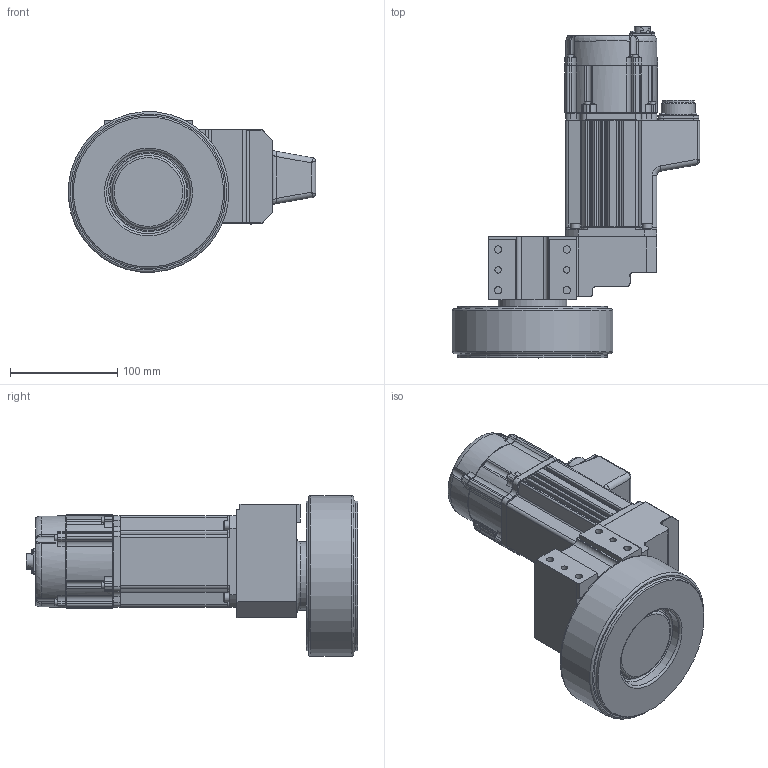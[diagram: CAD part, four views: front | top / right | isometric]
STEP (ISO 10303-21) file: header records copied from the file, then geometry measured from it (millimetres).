
FILE_DESCRIPTION(('STEP AP203'),'1');
FILE_NAME('cad-stp-DP-W020B-T15.stp','2022-12-22T00:20:45',(' '),(' '),'Spatial InterOp 3D',' ',' ');
FILE_SCHEMA(('CONFIG_CONTROL_DESIGN'));
Length unit declared in the file: millimetre
Products named in the file (1): cad-stp-DP-W020B-T15
Bounding box: 230.78 x 309.55 x 149.55 mm (x, y, z)
Volume: 2757122.6 mm3; surface area: 238310.2 mm2
Topology: 1 solids, 66 shells, 1689 faces, 3858 edges, 2394 vertices
Faces by surface type: plane 876, cylinder 449, cone 257, torus 68, bspline 32, sphere 7
Full cylindrical faces by diameter (mm): 0.756 x10, 0.8 x10, 1.7 x10, 2 x7, 2.05 x2, 2.5 x32, 2.8 x7, 3 x12, 3.1 x4, 3.2 x4, 3.3 x4, 3.5 x12, 4.2 x8, 4.5 x8, 5 x18, 5.5 x16, 6 x10, 6.5 x4, 6.8 x8, 8 x4, 8.5 x4, 10.6 x1, 11.6 x1, 12 x1, 14.8 x1, 17 x1, 18 x1, 21.5 x1, 27 x1, 29.6 x1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
Entity records: 49728 total; most frequent: CARTESIAN_POINT 13116, DIRECTION 7917, ORIENTED_EDGE 6808, EDGE_CURVE 3404, AXIS2_PLACEMENT_3D 3045, VERTEX_POINT 2289, EDGE_LOOP 2177, FACE_OUTER_BOUND 1942
